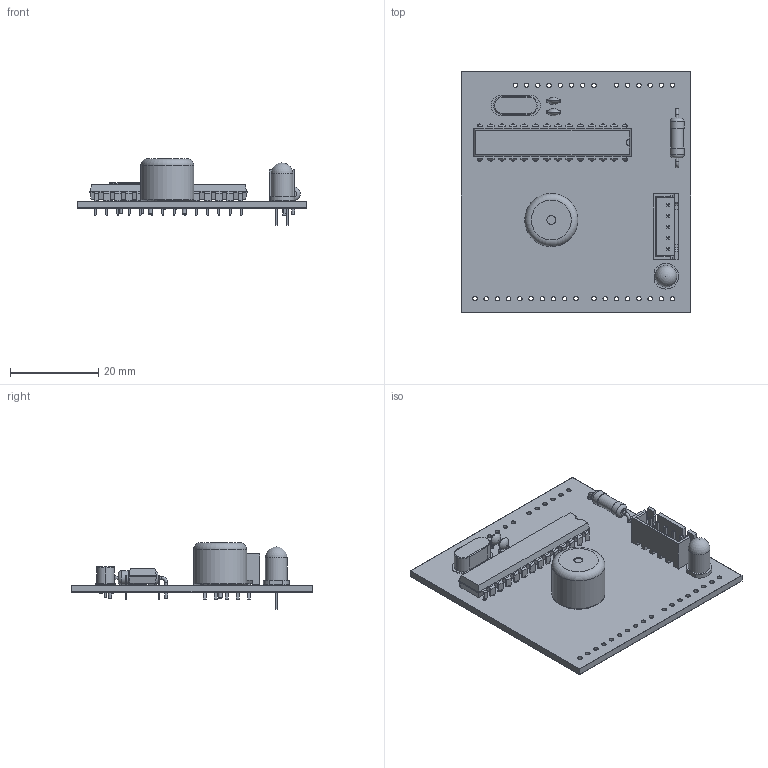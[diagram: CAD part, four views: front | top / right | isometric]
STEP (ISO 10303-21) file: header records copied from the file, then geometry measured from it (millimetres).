
FILE_DESCRIPTION(('KiCad electronic assembly'),'2;1');
FILE_NAME('TouchScreen.step','2026-02-17T11:04:45',('Pcbnew'),('Kicad'), 'Open CASCADE STEP processor 7.9','KiCad to STEP converter','Unknown' );
FILE_SCHEMA(('AUTOMOTIVE_DESIGN { 1 0 10303 214 1 1 1 1 }'));
Length unit declared in the file: millimetre
Products named in the file (11): TouchScreen 1; Buzzer_12x9.5RM7.6; R_Axial_DIN0309_L9.0mm_D3.2mm_P12.70mm_Horizontal; DIP-28_W7.62mm; JST_XH_B5B-XH-A_1x05_P2.50mm_Vertical; C_Disc_D3.0mm_W1.6mm_P2.50mm; LED_D5.0mm; Crystal_HC49-4H_Vertical; TouchScreen_soldermask; TouchScreen_PCB
Assembly tree (11 placements, depth 2):
  TouchScreen 1
    Buzzer_12x9.5RM7.6
    R_Axial_DIN0309_L9.0mm_D3.2mm_P12.70mm_Horizontal
    DIP-28_W7.62mm
    JST_XH_B5B-XH-A_1x05_P2.50mm_Vertical
    C_Disc_D3.0mm_W1.6mm_P2.50mm  x2
    LED_D5.0mm
    Crystal_HC49-4H_Vertical
    TouchScreen_soldermask
    TouchScreen_soldermask
    TouchScreen_PCB
Bounding box: 51.82 x 54.36 x 15.03 mm (x, y, z)
Volume: 6649.3 mm3; surface area: 14653.3 mm2
Topology: 9 solids, 11 shells, 834 faces, 2370 edges, 1575 vertices
Faces by surface type: plane 598, cylinder 175, bspline 40, torus 12, sphere 5, revolution 4
Full cylindrical faces by diameter (mm): 0.5 x6, 0.7 x4, 0.8 x36, 0.9 x4, 0.95 x5, 1 x34, 2 x1, 2.88 x1, 3.2 x2, 4.9 x1, 12 x1
Entity records: 32989 total; most frequent: CARTESIAN_POINT 5394, ORIENTED_EDGE 4510, DIRECTION 4419, EDGE_CURVE 2336, LINE 1785, VECTOR 1785, VERTEX_POINT 1556, AXIS2_PLACEMENT_3D 1316
